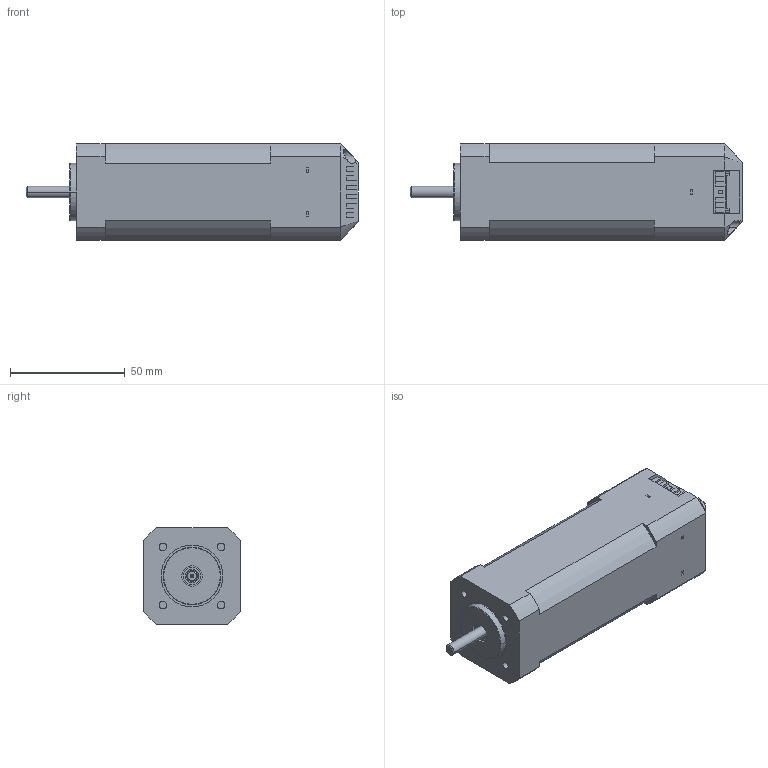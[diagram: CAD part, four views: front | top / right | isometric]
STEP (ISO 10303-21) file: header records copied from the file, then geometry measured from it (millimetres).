
FILE_DESCRIPTION((''),'2;1');
FILE_NAME('3_1_02_042_1545X1_SW0001','2024-10-15T09:23:10',('huangxue'),(''),'CREO PARAMETRIC BY PTC INC, 2017110','CREO PARAMETRIC BY PTC INC, 2017110','');
FILE_SCHEMA(('CONFIG_CONTROL_DESIGN'));
Products named in the file (1): 3_1_02_042_1545X1_SW0001
Bounding box: 144.8 x 42 x 42 mm (x, y, z)
Volume: 127520.6 mm3; surface area: 96761.7 mm2
Topology: 2 solids, 3 shells, 3216 faces, 8802 edges, 5708 vertices
Faces by surface type: plane 2536, cylinder 573, cone 54, torus 27, sphere 16, bspline 10
Entity records: 102654 total; most frequent: CARTESIAN_POINT 19708, ORIENTED_EDGE 17596, DIRECTION 16787, EDGE_CURVE 8798, VECTOR 6925, LINE 6925, VERTEX_POINT 5707, AXIS2_PLACEMENT_3D 4931
